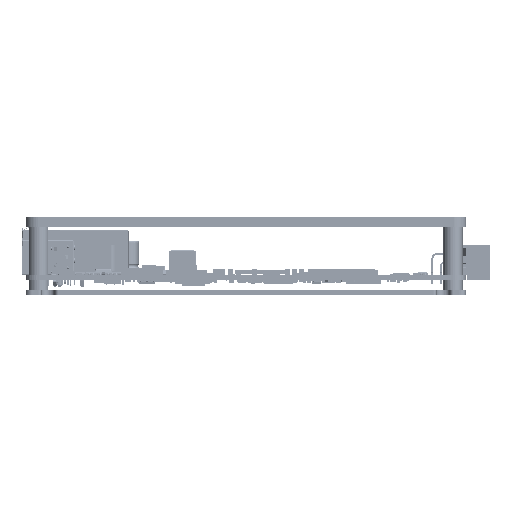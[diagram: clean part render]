
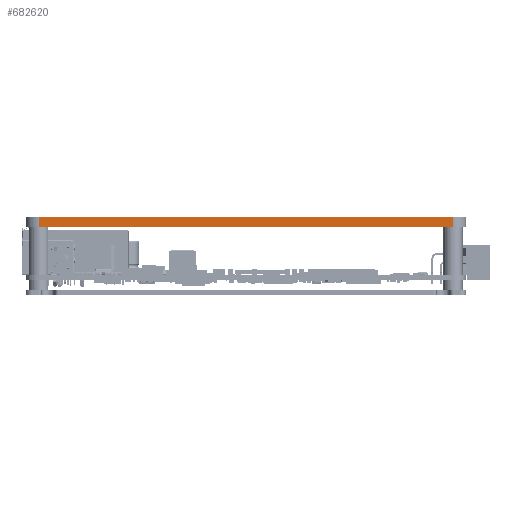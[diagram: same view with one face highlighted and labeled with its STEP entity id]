
A CAD part, left-side view. The second image highlights one B-rep face of the part: STEP entity #682620.
In plain terms, the highlighted planar face has unit normal (-1, 0, 0).
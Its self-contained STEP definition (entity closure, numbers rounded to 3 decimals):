
#680784 = EDGE_CURVE('',#680785,#680787,#680789,.T.);
#680785 = VERTEX_POINT('',#680786);
#680786 = CARTESIAN_POINT('',(0.,132.,
    19.6));
#680787 = VERTEX_POINT('',#680788);
#680788 = CARTESIAN_POINT('',(0.,132.,
    22.6));
#680789 = LINE('',#680790,#680791);
#680790 = CARTESIAN_POINT('',(0.,132.,
    19.6));
#680791 = VECTOR('',#680792,1.);
#680792 = DIRECTION('',(0.,0.,1.));
#682595 = VERTEX_POINT('',#682596);
#682596 = CARTESIAN_POINT('',(0.,4.,
    22.6));
#682602 = EDGE_CURVE('',#682603,#682595,#682605,.T.);
#682603 = VERTEX_POINT('',#682604);
#682604 = CARTESIAN_POINT('',(0.,4.,
    19.6));
#682605 = LINE('',#682606,#682607);
#682606 = CARTESIAN_POINT('',(0.,4.,
    19.6));
#682607 = VECTOR('',#682608,1.);
#682608 = DIRECTION('',(0.,0.,1.));
#682620 = ADVANCED_FACE('',(#682621),#682637,.T.);
#682621 = FACE_BOUND('',#682622,.T.);
#682622 = EDGE_LOOP('',(#682623,#682624,#682630,#682631));
#682623 = ORIENTED_EDGE('',*,*,#682602,.T.);
#682624 = ORIENTED_EDGE('',*,*,#682625,.T.);
#682625 = EDGE_CURVE('',#682595,#680787,#682626,.T.);
#682626 = LINE('',#682627,#682628);
#682627 = CARTESIAN_POINT('',(0.,4.,
    22.6));
#682628 = VECTOR('',#682629,1.);
#682629 = DIRECTION('',(0.,1.,0.));
#682630 = ORIENTED_EDGE('',*,*,#680784,.F.);
#682631 = ORIENTED_EDGE('',*,*,#682632,.F.);
#682632 = EDGE_CURVE('',#682603,#680785,#682633,.T.);
#682633 = LINE('',#682634,#682635);
#682634 = CARTESIAN_POINT('',(0.,4.,
    19.6));
#682635 = VECTOR('',#682636,1.);
#682636 = DIRECTION('',(0.,1.,0.));
#682637 = PLANE('',#682638);
#682638 = AXIS2_PLACEMENT_3D('',#682639,#682640,#682641);
#682639 = CARTESIAN_POINT('',(0.,4.,
    19.6));
#682640 = DIRECTION('',(-1.,0.,0.));
#682641 = DIRECTION('',(0.,1.,0.));
